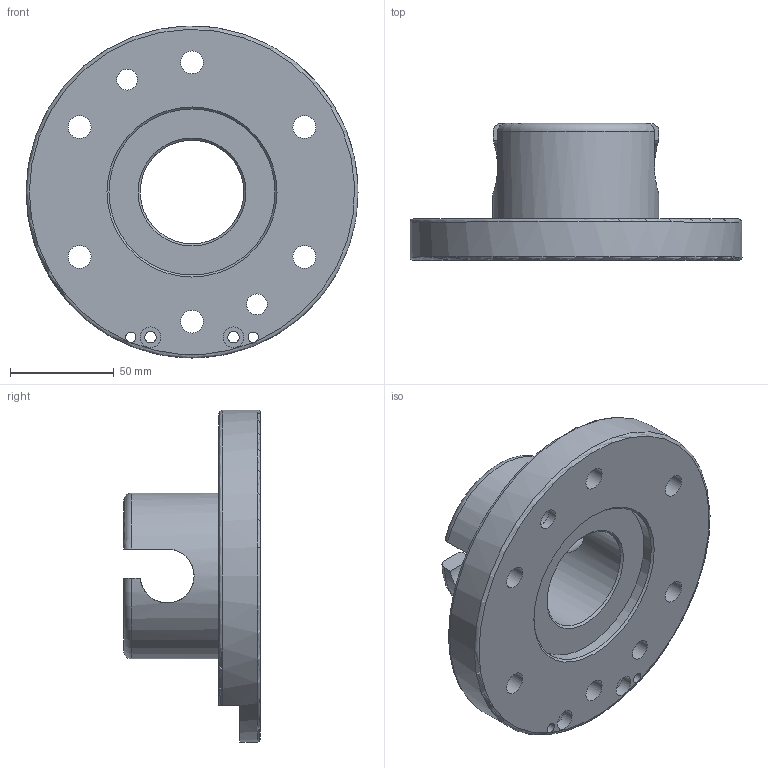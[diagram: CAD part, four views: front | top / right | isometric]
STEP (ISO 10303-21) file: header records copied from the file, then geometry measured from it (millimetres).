
FILE_DESCRIPTION(/* description */ ('G-MGW160-Unterteil'),/* implementation_level */ '2;1');
FILE_NAME(/* name */ '\\dc01\daten\CAD\Standard\Daten\3D-Datenbank\MGW\4 - 3D-CAD-Daten MGW 050-160\MGW160\step-Daten\G-MGW160-2UE.stp',/* time_stamp */ '2016-02-24T14:55:10+01:00',/* author */ ('ysplieth'),/* organization */ ('GRIP GmbH'),/* preprocessor_version */ 'ST-DEVELOPER v15.2',/* originating_system */ 'Autodesk Inventor 2014',/* authorisation */ '');
FILE_SCHEMA (('CONFIG_CONTROL_DESIGN'));
Length unit declared in the file: millimetre
Products named in the file (1): G-MGW160-4.4-1
Bounding box: 160 x 66 x 160 mm (x, y, z)
Volume: 425070.4 mm3; surface area: 72654.3 mm2
Topology: 1 solids, 1 shells, 57 faces, 143 edges, 94 vertices
Faces by surface type: cylinder 27, plane 20, cone 6, torus 4
Full cylindrical faces by diameter (mm): 5 x2, 5.5 x2, 10 x4, 11 x6, 12.1 x1, 18 x6, 50 x1, 80 x2, 160 x1
Entity records: 1770 total; most frequent: CARTESIAN_POINT 479, DIRECTION 268, ORIENTED_EDGE 208, AXIS2_PLACEMENT_3D 122, EDGE_LOOP 119, EDGE_CURVE 104, VERTEX_POINT 85, FACE_BOUND 65
